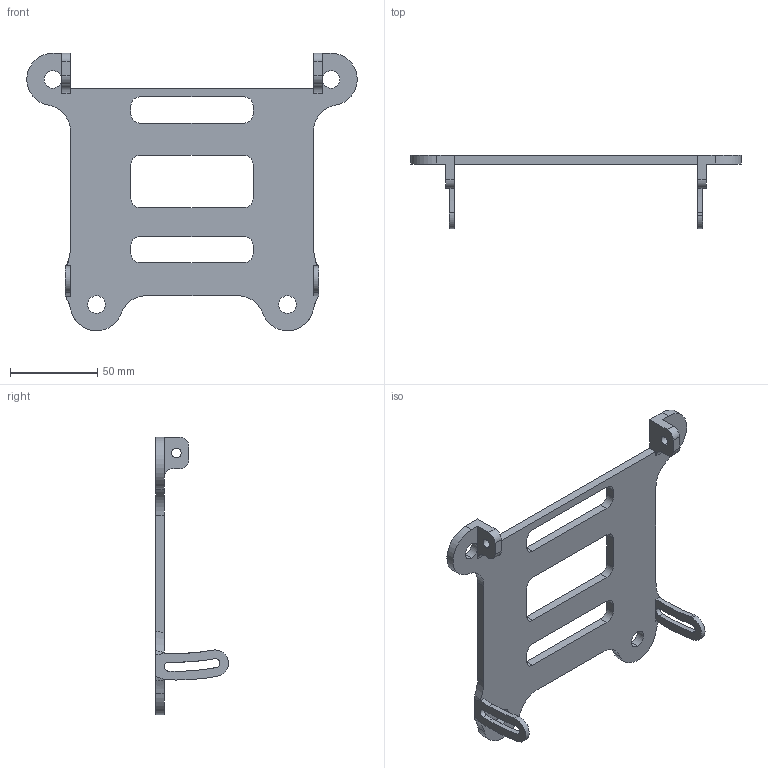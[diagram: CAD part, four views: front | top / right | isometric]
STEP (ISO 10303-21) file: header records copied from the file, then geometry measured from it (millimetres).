
FILE_DESCRIPTION (( 'STEP AP203' ), '1' );
FILE_NAME ('base.STEP', '2019-07-18T16:10:02', ( '' ), ( '' ), 'SwSTEP 2.0', 'SolidWorks 2017', '' );
FILE_SCHEMA (( 'CONFIG_CONTROL_DESIGN' ));
Length unit declared in the file: millimetre
Products named in the file (1): base
Bounding box: 189.4 x 41.82 x 159 mm (x, y, z)
Volume: 78160 mm3; surface area: 39803.5 mm2
Topology: 1 solids, 1 shells, 101 faces, 301 edges, 194 vertices
Faces by surface type: cylinder 61, plane 32, bspline 6, torus 2
Entity records: 3895 total; most frequent: CARTESIAN_POINT 1032, DIRECTION 595, ORIENTED_EDGE 594, EDGE_CURVE 297, AXIS2_PLACEMENT_3D 224, VERTEX_POINT 194, VECTOR 147, LINE 147
